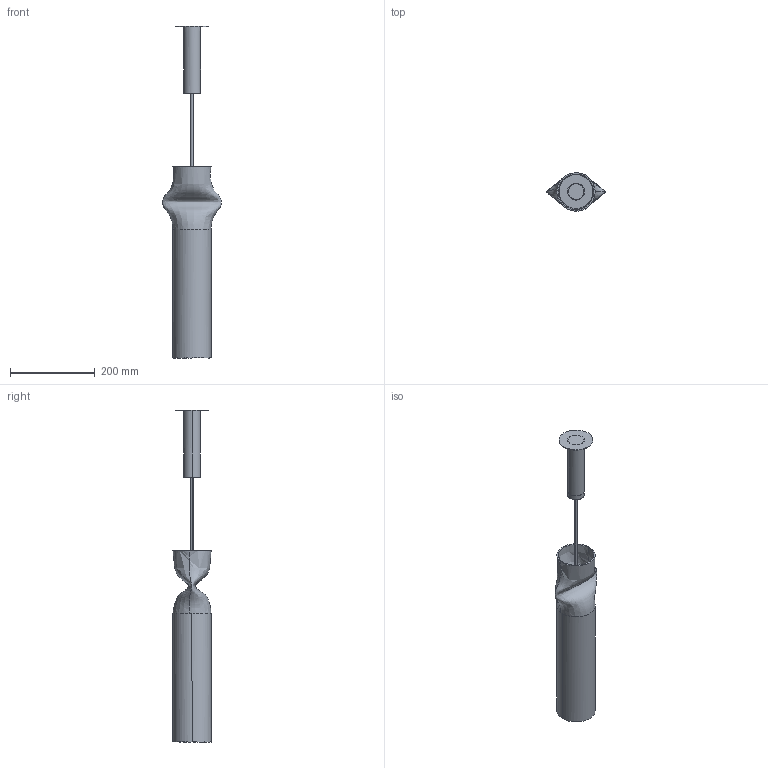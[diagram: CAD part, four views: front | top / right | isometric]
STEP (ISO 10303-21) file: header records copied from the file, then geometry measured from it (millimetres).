
FILE_DESCRIPTION(/* description */ (''),/* implementation_level */ '2;1');
FILE_NAME(/* name */ 'Press lamp',/* time_stamp */ '2019-01-23T16:18:07+01:00',/* author */ (''),/* organization */ (''),/* preprocessor_version */ 'ST-DEVELOPER v15',/* originating_system */ '',/* authorisation */ '');
FILE_SCHEMA (('AUTOMOTIVE_DESIGN'));
Length unit declared in the file: millimetre
Products named in the file (1): Document
Bounding box: 137.96 x 89.91 x 781.87 mm (x, y, z)
Volume: 492939.9 mm3; surface area: 333109.9 mm2
Topology: 6 solids, 7 shells, 68 faces, 153 edges, 102 vertices
Faces by surface type: bspline 68
Entity records: 21606 total; most frequent: CARTESIAN_POINT 19655, ORIENTED_EDGE 301, PCURVE 301, DEFINITIONAL_REPRESENTATION 301, B_SPLINE_CURVE_WITH_KNOTS 289, SURFACE_CURVE 151, EDGE_CURVE 151, VERTEX_POINT 102
